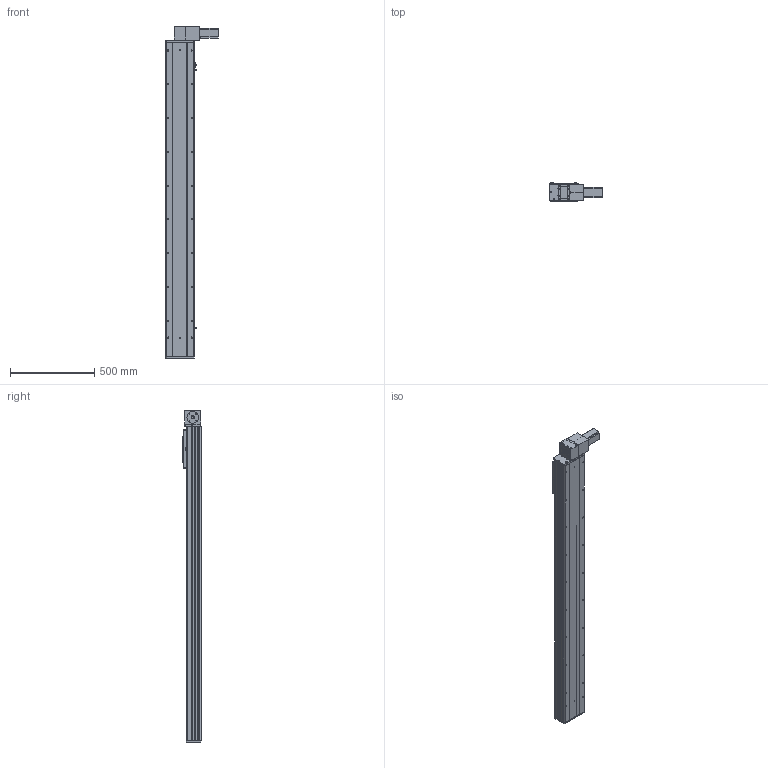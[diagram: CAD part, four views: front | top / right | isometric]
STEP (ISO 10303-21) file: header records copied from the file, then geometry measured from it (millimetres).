
FILE_DESCRIPTION (( 'STEP AP203' ), '1' );
FILE_NAME ('Y170CB-D105-S1550-BD-P400W.STEP', '2020-02-20T08:47:38', ( '微软用户' ), ( '微软中国' ), 'SwSTEP 2.0', 'SolidWorks 2017', '' );
FILE_SCHEMA (( 'CONFIG_CONTROL_DESIGN' ));
Length unit declared in the file: millimetre
Products named in the file (16): 70C-雄赽釱-奻-; 70B喘謫眊----; 0C--雄赽釱俋欶-170; B-源倛裔啣; 0B薊粣ん眊-400W--; 70CB-詩湍--; san松下电机400不带刹车----; Y170CB-D105-S1550-BD-P400W; Y100-135俋离換覜ん--; 70CB-掛极-; --70CB --喘謫眊楊擘啣-; 70CB-耜裔啣-; 70C--詩湍揤踡え-; Y170CB-陔俋离換覜結え---; 70CB--耜裔; Y1埴倛裔
Assembly tree (19 placements, depth 2):
  Y170CB-D105-S1550-BD-P400W
    B-源倛裔啣
    san松下电机400不带刹车----
    70CB-掛极-
    --70CB --喘謫眊楊擘啣-
    70CB-耜裔啣-  x2
    70C--詩湍揤踡え-  x2
    70CB--耜裔
    70C-雄赽釱-奻-
    0C--雄赽釱俋欶-170
    70CB-詩湍--
    Y100-135俋离換覜ん--  x3
    Y170CB-陔俋离換覜結え---
    Y1埴倛裔
    70B喘謫眊----
    0B薊粣ん眊-400W--
Bounding box: 313.5 x 107 x 1966 mm (x, y, z)
Volume: 8992093.6 mm3; surface area: 3104451.1 mm2
Topology: 19 solids, 19 shells, 944 faces, 2498 edges, 1656 vertices
Faces by surface type: cylinder 498, plane 422, cone 24
Entity records: 29595 total; most frequent: CARTESIAN_POINT 5506, DIRECTION 4815, ORIENTED_EDGE 4478, EDGE_CURVE 2239, AXIS2_PLACEMENT_3D 1781, VERTEX_POINT 1486, LINE 1253, VECTOR 1253
